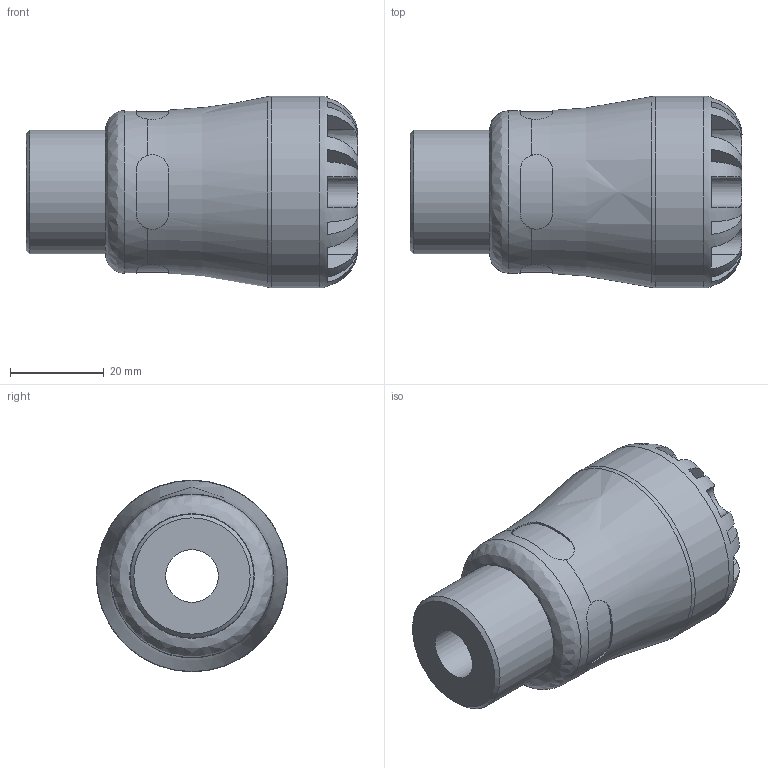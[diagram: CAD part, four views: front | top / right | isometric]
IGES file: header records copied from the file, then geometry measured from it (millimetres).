
Global section: file name: 1002C7015007.ipt; native system: Autodesk Inventor 2015; preprocessor: unknown; author: KIM; date: 20170515.110535; units: millimetre
Bounding box: 71 x 41 x 41 mm (x, y, z)
Volume: 55791.9 mm3; surface area: 13552.7 mm2
Topology: 1 solids, 1 shells, 99 faces, 264 edges, 169 vertices
Faces by surface type: plane 60, revolution 23, cylinder 15, cone 1
Full cylindrical faces by diameter (mm): 26.441 x1, 34.85 x1, 41 x1
